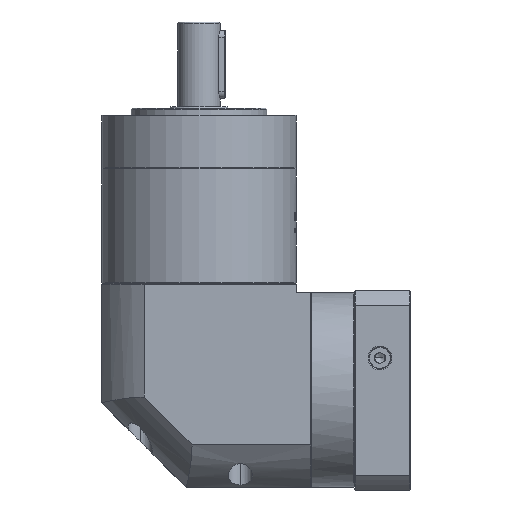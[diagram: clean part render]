
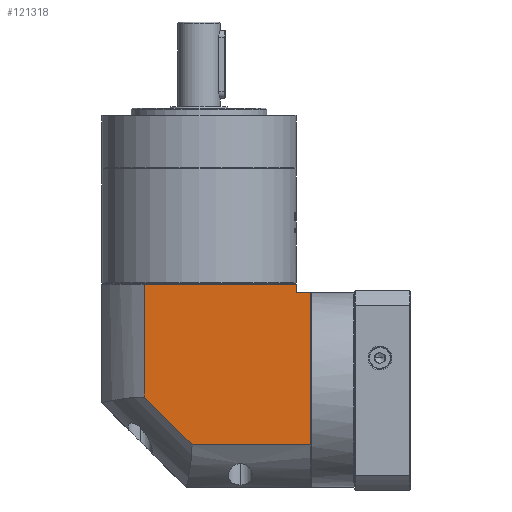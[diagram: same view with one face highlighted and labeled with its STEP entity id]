
A CAD part, left-side view. The second image highlights one B-rep face of the part: STEP entity #121318.
In plain terms, the highlighted planar face has unit normal (-1, 0, 0).
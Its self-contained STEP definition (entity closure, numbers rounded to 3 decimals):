
#5455 = CARTESIAN_POINT ( 'NONE',  ( -236.869, -2.078, 74.676 ) ) ;
#7256 = VERTEX_POINT ( 'NONE', #88044 ) ;
#8900 = VERTEX_POINT ( 'NONE', #12352 ) ;
#10828 = CARTESIAN_POINT ( 'NONE',  ( -236.869, 96.222, 13.114 ) ) ;
#12352 = CARTESIAN_POINT ( 'NONE',  ( -236.869, 67.884, -15.224 ) ) ;
#19378 = EDGE_LOOP ( 'NONE', ( #55113, #122526, #78873, #133474, #43262, #160459, #52563 ) ) ;
#19458 = CARTESIAN_POINT ( 'NONE',  ( -236.869, 6.322, 74.676 ) ) ;
#24139 = DIRECTION ( 'NONE',  ( 0., 1., 0. ) ) ;
#24389 = EDGE_CURVE ( 'NONE', #149252, #29157, #56910, .T. ) ;
#27447 = VECTOR ( 'NONE', #59423, 1000. ) ;
#27641 = LINE ( 'NONE', #19458, #82425 ) ;
#29009 = LINE ( 'NONE', #94786, #88167 ) ;
#29157 = VERTEX_POINT ( 'NONE', #48885 ) ;
#39110 = DIRECTION ( 'NONE',  ( 0., 0., 1. ) ) ;
#43262 = ORIENTED_EDGE ( 'NONE', *, *, #179334, .T. ) ;
#48885 = CARTESIAN_POINT ( 'NONE',  ( -236.869, -2.078, -15.224 ) ) ;
#49467 = FACE_OUTER_BOUND ( 'NONE', #19378, .T. ) ;
#52537 = VECTOR ( 'NONE', #115715, 1000. ) ;
#52563 = ORIENTED_EDGE ( 'NONE', *, *, #117558, .F. ) ;
#54095 = CARTESIAN_POINT ( 'NONE',  ( -236.869, 121.322, 86.176 ) ) ;
#55113 = ORIENTED_EDGE ( 'NONE', *, *, #139148, .F. ) ;
#56910 = LINE ( 'NONE', #69640, #52537 ) ;
#59423 = DIRECTION ( 'NONE',  ( 0., 0., 1. ) ) ;
#63180 = LINE ( 'NONE', #80814, #76390 ) ;
#69640 = CARTESIAN_POINT ( 'NONE',  ( -236.869, -2.078, 86.176 ) ) ;
#76390 = VECTOR ( 'NONE', #152136, 1000. ) ;
#77221 = CARTESIAN_POINT ( 'NONE',  ( -236.869, 6.322, 79.676 ) ) ;
#78873 = ORIENTED_EDGE ( 'NONE', *, *, #160498, .F. ) ;
#78896 = CARTESIAN_POINT ( 'NONE',  ( -236.869, 96.222, 79.676 ) ) ;
#80814 = CARTESIAN_POINT ( 'NONE',  ( -236.869, 67.884, -15.224 ) ) ;
#82425 = VECTOR ( 'NONE', #146546, 1000. ) ;
#85177 = LINE ( 'NONE', #177172, #131443 ) ;
#88044 = CARTESIAN_POINT ( 'NONE',  ( -236.869, 6.322, 74.676 ) ) ;
#88167 = VECTOR ( 'NONE', #39110, 1000. ) ;
#94570 = DIRECTION ( 'NONE',  ( 1., 0., 0. ) ) ;
#94786 = CARTESIAN_POINT ( 'NONE',  ( -236.869, 6.322, -40.324 ) ) ;
#101962 = LINE ( 'NONE', #173182, #27447 ) ;
#109405 = AXIS2_PLACEMENT_3D ( 'NONE', #54095, #94570, #24139 ) ;
#115715 = DIRECTION ( 'NONE',  ( 0., 0., -1. ) ) ;
#117558 = EDGE_CURVE ( 'NONE', #163874, #172273, #126532, .T. ) ;
#121318 = ADVANCED_FACE ( 'NONE', ( #49467 ), #162913, .F. ) ;
#122118 = VECTOR ( 'NONE', #147909, 1000. ) ;
#122526 = ORIENTED_EDGE ( 'NONE', *, *, #134029, .F. ) ;
#126532 = LINE ( 'NONE', #149724, #122118 ) ;
#131443 = VECTOR ( 'NONE', #163653, 1000. ) ;
#133474 = ORIENTED_EDGE ( 'NONE', *, *, #24389, .F. ) ;
#134029 = EDGE_CURVE ( 'NONE', #8900, #174221, #63180, .T. ) ;
#139148 = EDGE_CURVE ( 'NONE', #174221, #163874, #101962, .T. ) ;
#146546 = DIRECTION ( 'NONE',  ( 0., 1., 0. ) ) ;
#147909 = DIRECTION ( 'NONE',  ( 0., -1., 0. ) ) ;
#149252 = VERTEX_POINT ( 'NONE', #5455 ) ;
#149724 = CARTESIAN_POINT ( 'NONE',  ( -236.869, 121.322, 79.676 ) ) ;
#152136 = DIRECTION ( 'NONE',  ( 0., 0.707, 0.707 ) ) ;
#160459 = ORIENTED_EDGE ( 'NONE', *, *, #168050, .T. ) ;
#160498 = EDGE_CURVE ( 'NONE', #29157, #8900, #85177, .T. ) ;
#162913 = PLANE ( 'NONE',  #109405 ) ;
#163653 = DIRECTION ( 'NONE',  ( 0., 1., 0. ) ) ;
#163874 = VERTEX_POINT ( 'NONE', #78896 ) ;
#168050 = EDGE_CURVE ( 'NONE', #7256, #172273, #29009, .T. ) ;
#172273 = VERTEX_POINT ( 'NONE', #77221 ) ;
#173182 = CARTESIAN_POINT ( 'NONE',  ( -236.869, 96.222, 86.176 ) ) ;
#174221 = VERTEX_POINT ( 'NONE', #10828 ) ;
#177172 = CARTESIAN_POINT ( 'NONE',  ( -236.869, 121.322, -15.224 ) ) ;
#179334 = EDGE_CURVE ( 'NONE', #149252, #7256, #27641, .T. ) ;
